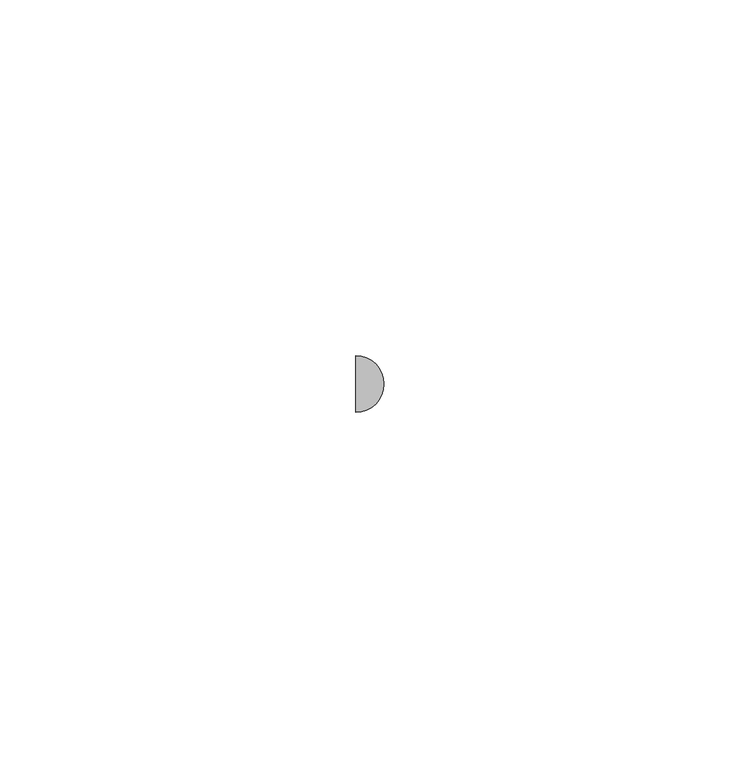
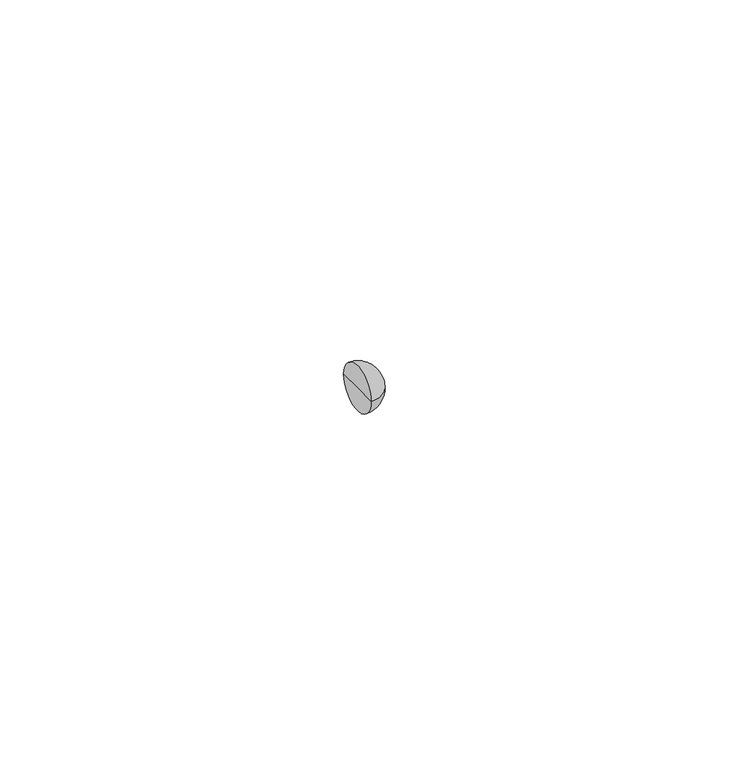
"""IFC4 building model written with IfcOpenShell, lengths in millimetres: pipe fitting geometry, UN_PIF_PP assembled branch S-Sp_equal_PipeLife : Black, var. DN/OD (max. ø125)."""

from ifc_helpers import new_model, si_unit, point, frame, origin, place, context, project, spatial, circle_curve, ellipse_curve, trimmed, source, transform, mapped, element, save
from ifc_brep_helpers import plane_surface, revolved_surface, advanced_brep


def pipe_fitting_c991208f(model_context):
    return source(origin(), model_context, "Body", "AdvancedBrep", [
        advanced_brep(
        [(-315.2635531, 0.0, 0.0), (-315.2635531, 4.0, 0.0), (-315.2635531, -4.0, 0.0), (-311.2635531, 0.0, 0.0)],
        [
            (0, 1),
            (1, 2, circle_curve(frame((-315.2635531, 0.0, 0.0), z_axis=(-1.0, 0.0, 0.0), x_axis=(0.0, 1.0, 0.0)), 4.0)),
            (2, 0),
            (2, 1, circle_curve(frame((-315.2635531, 0.0, 0.0), z_axis=(-1.0, 0.0, 0.0), x_axis=(0.0, 1.0, 0.0)), 4.0)),
            (1, 3, circle_curve(frame((-315.2635531, 0.0, 0.0), z_axis=(0.0, 0.0, -1.0), x_axis=(1.0, 0.0, 0.0)), 4.0)),
            (3, 2, circle_curve(frame((-315.2635531, 0.0, 0.0), z_axis=(0.0, 0.0, -1.0), x_axis=(1.0, 0.0, 0.0)), 4.0)),
        ],
        [
            plane_surface(frame((-315.2635531, 0.0, 0.0), z_axis=(-1.0, 0.0, 0.0), x_axis=(0.0, 1.0, 0.0))),
            revolved_surface(trimmed(ellipse_curve(frame((-315.2635531, 0.0, 0.0), z_axis=(0.0, 0.0, 1.0), x_axis=(1.0, 0.0, 0.0)), 4.0, 4.0), [point((-311.2635531, 0.0, 0.0))], [point((-315.2635531, 4.0, 0.0))], True, "CARTESIAN"), (-216.3635531, 0.0, 0.0), (-1.0, 0.0, 0.0)),
        ],
        [
            (0, [[1, 2, 3]]),
            (0, [[-3, 4, -1]]),
            (1, [[-2, 5, 6]]),
            (1, [[-4, -6, -5]]),
        ],
    ),
    ])


if __name__ == "__main__":
    model = new_model("IFC4")
    model_context = context("Model", 3, world=origin())
    ifc_project = project(units=[si_unit("LENGTHUNIT", "METRE", prefix="MILLI")], contexts=[model_context])
    site = spatial("IfcSite", under=ifc_project)
    building = spatial("IfcBuilding", under=site)
    placement = place(None, origin())
    pipe_fitting_shape = pipe_fitting_c991208f(model_context)
    element("IfcPipeFitting", 1, ObjectType="UN_PIF_PP assembled branch S-Sp_equal_PipeLife : Black, var. DN/OD (max. ø125)", at=placement, inside=building, context=model_context, shape_type="MappedRepresentation", body=[
        mapped(pipe_fitting_shape, transform((0.0, 0.0, 0.0), x_axis=(1.0, 0.0, 0.0), y_axis=(0.0, 1.0, 0.0), z_axis=(0.0, 0.0, 1.0))),
    ])
    save(model, "model.ifc")
